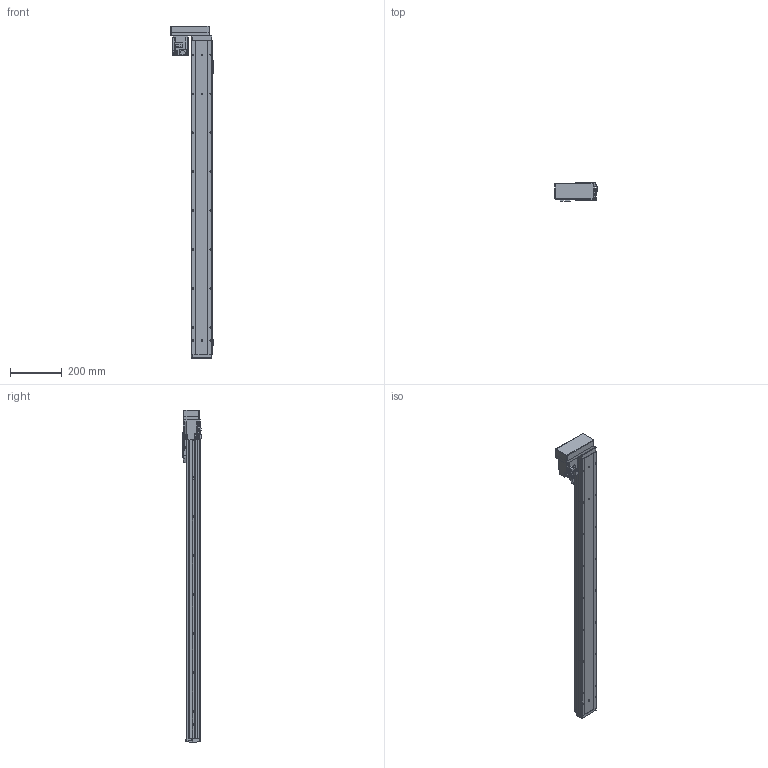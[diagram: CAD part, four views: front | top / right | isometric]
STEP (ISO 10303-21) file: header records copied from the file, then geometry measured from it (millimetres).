
FILE_DESCRIPTION (( 'STEP AP214' ), '1' );
FILE_NAME ('GSH8-1050-BR-M20-1.step', '2025-01-07T06:09:47', ( '' ), ( '' ), 'SwSTEP 2.0', 'SolidWorks 2012', '' );
FILE_SCHEMA (( 'AUTOMOTIVE_DESIGN' ));
Length unit declared in the file: millimetre
Products named in the file (5): GSH8-BL-011-1050-M20; GSH8-1050-BR-M20-1; GSH8-BL-008; GSH8-GY-004; HG-KR23_200W_Motor
Assembly tree (4 placements, depth 2):
  GSH8-1050-BR-M20-1
    GSH8-BL-011-1050-M20
    GSH8-GY-004
    GSH8-BL-008
    HG-KR23_200W_Motor
Bounding box: 163 x 71.3 x 1278.2 mm (x, y, z)
Volume: 2769261 mm3; surface area: 732826.2 mm2
Topology: 4 solids, 8 shells, 1172 faces, 3092 edges, 1993 vertices
Faces by surface type: plane 654, cylinder 422, torus 42, cone 26, bspline 24, sphere 4
Entity records: 46280 total; most frequent: CARTESIAN_POINT 10858, DIRECTION 6284, ORIENTED_EDGE 6168, EDGE_CURVE 3084, AXIS2_PLACEMENT_3D 2123, LINE 2038, VECTOR 2038, VERTEX_POINT 1989
